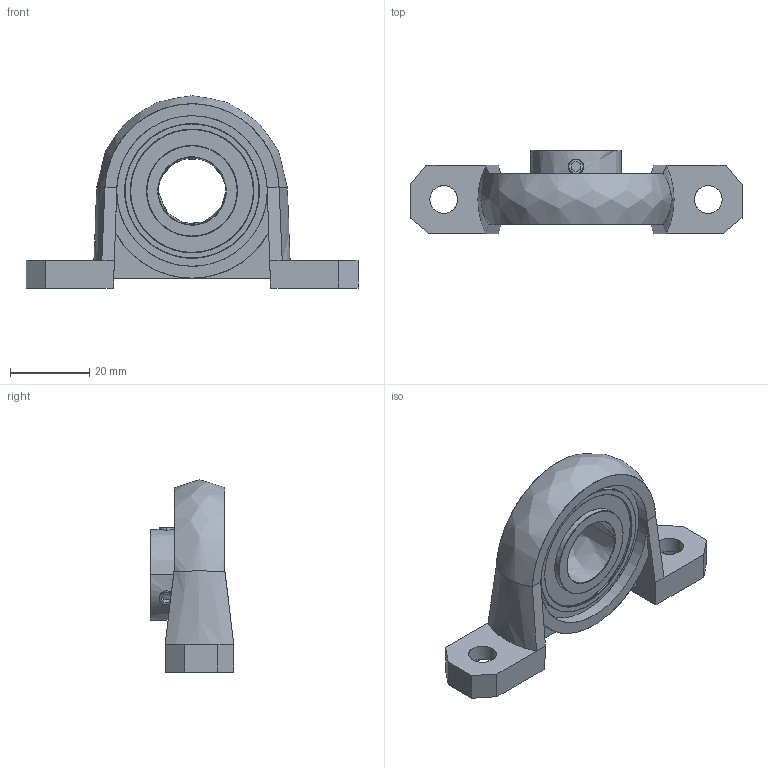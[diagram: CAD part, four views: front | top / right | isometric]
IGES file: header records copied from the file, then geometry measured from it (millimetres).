
Global section: file name: C:\Users\Pendik Arge\Desktop\par; native system: Rhinoceros ( Oct 25 2020 ); preprocessor: Trout Lake IGES 012 Oct 25 2020; date: 231226.095640; units: millimetre
Bounding box: 83.59 x 21.05 x 48.43 mm (x, y, z)
Surface area: 16625.2 mm2 (no closed solid volume)
Topology: 0 solids, 0 shells, 152 faces, 842 edges, 842 vertices
Faces by surface type: bspline 152
